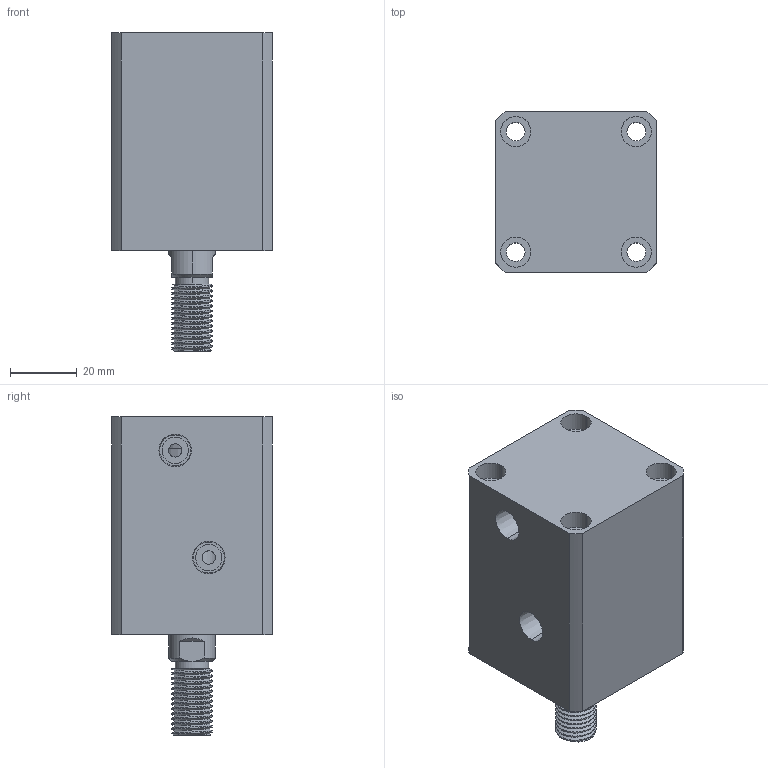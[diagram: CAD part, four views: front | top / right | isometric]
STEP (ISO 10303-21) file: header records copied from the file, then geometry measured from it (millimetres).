
FILE_DESCRIPTION (( 'STEP AP214' ), '1' );
FILE_NAME ('chtb-sd25x20w_asm.STEP', '2018-05-22T09:23:42', ( 'Windows' ), ( 'Microsoft' ), 'SwSTEP 2.0', 'SolidWorks 2015', '' );
FILE_SCHEMA (( 'AUTOMOTIVE_DESIGN' ));
Length unit declared in the file: millimetre
Products named in the file (4): CHTB-SD25X20WHSG; CHTB-SD25X20NBT; CHTB-25QG; chtb-sd25x20w_asm
Assembly tree (3 placements, depth 2):
  chtb-sd25x20w_asm
    CHTB-25QG
    CHTB-SD25X20NBT
    CHTB-SD25X20WHSG
Bounding box: 48 x 48 x 95 mm (x, y, z)
Volume: 135131.8 mm3; surface area: 37897.5 mm2
Topology: 3 solids, 3 shells, 178 faces, 474 edges, 323 vertices
Faces by surface type: cylinder 113, plane 39, cone 14, bspline 12
Entity records: 10610 total; most frequent: CARTESIAN_POINT 6273, ORIENTED_EDGE 940, DIRECTION 778, EDGE_CURVE 470, VERTEX_POINT 323, AXIS2_PLACEMENT_3D 317, EDGE_LOOP 217, FACE_OUTER_BOUND 178
